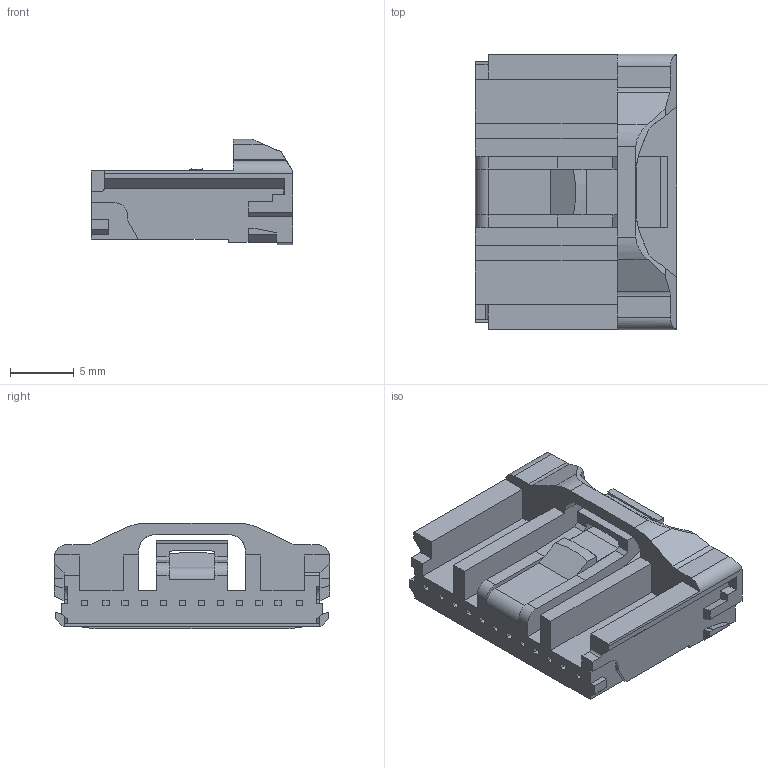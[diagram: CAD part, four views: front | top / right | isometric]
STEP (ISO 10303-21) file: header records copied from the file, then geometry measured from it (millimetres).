
FILE_DESCRIPTION(('CATIA V5 STEP','CAx-IF Rec.Pracs.--- Model Styling and Organization---1.5--- 2016-08-15','CAx-IF Rec.Pracs.---Supplemental Geometry---1.0---2011-11-01','CAx-IF Rec.Pracs.--- Composite Materials ---1.1---2010-07-15'),'2;1');
FILE_NAME('C:\Users\0120140016\Desktop\カタログ3D\24WAY\6099-0059(HE020-24F-U-LGR).stp','2024-09-25T03:26:42+00:00',('none'),('none'),'CATIA Version 5-6 Release 2022 SP2 HF23','CATIA V5 STEP AP214 v2','none');
FILE_SCHEMA(('AUTOMOTIVE_DESIGN { 1 0 10303 214 1 1 1 1 }'));
Length unit declared in the file: millimetre
Products named in the file (1): UJA166_24F_UPPER_HSG.1
Bounding box: 15.8 x 21.65 x 8.3 mm (x, y, z)
Volume: 1277.2 mm3; surface area: 1706.6 mm2
Topology: 1 solids, 3 shells, 334 faces, 948 edges, 629 vertices
Faces by surface type: plane 295, cylinder 39
Entity records: 10079 total; most frequent: CARTESIAN_POINT 1944, ORIENTED_EDGE 1896, DIRECTION 1327, EDGE_CURVE 948, VECTOR 858, LINE 858, VERTEX_POINT 629, EDGE_LOOP 347
